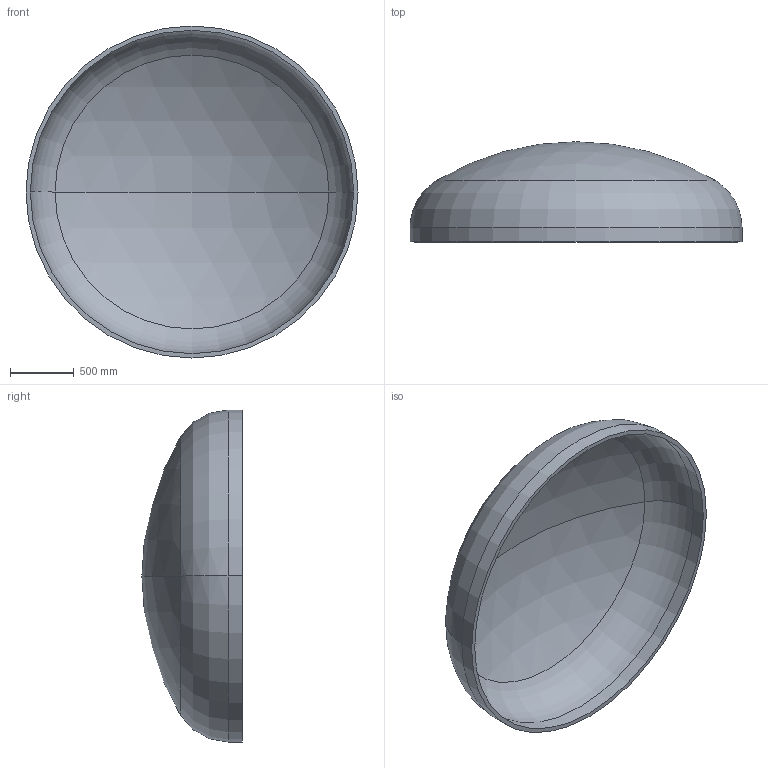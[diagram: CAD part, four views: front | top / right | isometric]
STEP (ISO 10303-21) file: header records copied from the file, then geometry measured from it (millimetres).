
FILE_DESCRIPTION (( 'STEP AP203' ), '1' );
FILE_NAME ('DIN 28013 Korbbogenform_-_Boden DIN 28013 - 2600 x 110 - I - s=34.step', '2016-07-01T16:07:03', ( '' ), ( '' ), 'SwSTEP 2.0', 'SolidWorks 2013', '' );
FILE_SCHEMA (( 'CONFIG_CONTROL_DESIGN' ));
Length unit declared in the file: millimetre
Products named in the file (1): DIN 28013 Korbbogenform_-_Boden DIN 28013 - 2600 x 110 - I - s=34
Bounding box: 2600 x 784.4 x 2600 mm (x, y, z)
Volume: 275828888 mm3; surface area: 16501729.2 mm2
Topology: 1 solids, 1 shells, 13 faces, 24 edges, 14 vertices
Faces by surface type: torus 4, cylinder 4, sphere 4, plane 1
Entity records: 407 total; most frequent: DIRECTION 72, CARTESIAN_POINT 52, ORIENTED_EDGE 48, AXIS2_PLACEMENT_3D 34, EDGE_CURVE 24, CIRCLE 20, VERTEX_POINT 14, EDGE_LOOP 14
